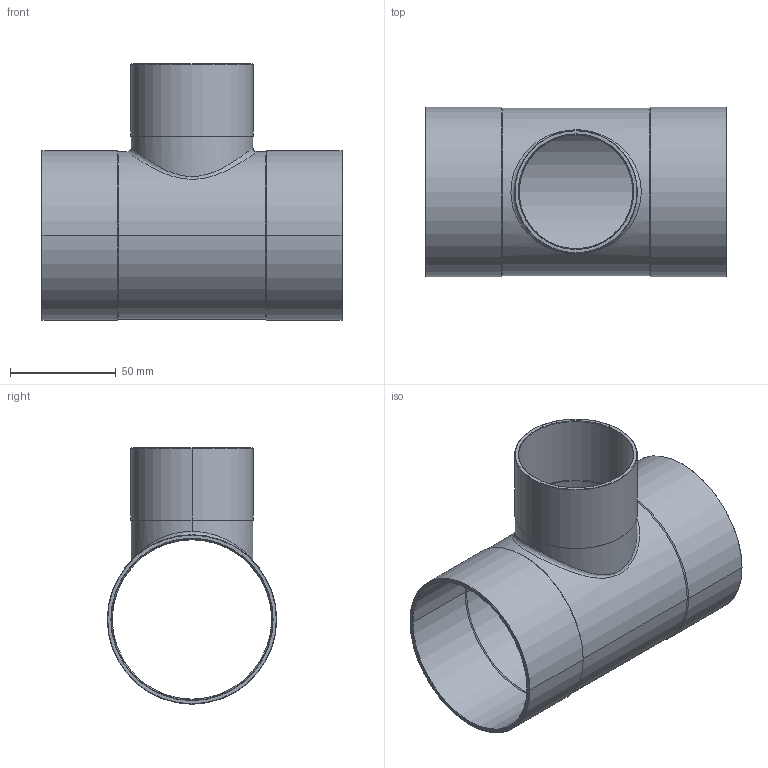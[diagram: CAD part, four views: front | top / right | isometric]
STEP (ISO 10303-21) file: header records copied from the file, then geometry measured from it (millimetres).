
FILE_DESCRIPTION((''),'2;1');
FILE_NAME('G:\Technics\CAD\Bauteile\15130\15130765476.stp','2005-11-02T10:20:01',('boden'),(''),'Autodesk Inventor 8','Autodesk Inventor 8','');
FILE_SCHEMA(('AUTOMOTIVE_DESIGN { 1 0 10303 214 1 1 1 1 }'));
Length unit declared in the file: millimetre
Products named in the file (1): 15130765476
Bounding box: 142 x 80 x 121 mm (x, y, z)
Volume: 77010.3 mm3; surface area: 82010.9 mm2
Topology: 1 solids, 1 shells, 49 faces, 102 edges, 56 vertices
Faces by surface type: cone 24, cylinder 20, plane 3, bspline 2
Entity records: 1723 total; most frequent: CARTESIAN_POINT 644, DIRECTION 240, ORIENTED_EDGE 204, EDGE_CURVE 102, AXIS2_PLACEMENT_3D 98, VERTEX_POINT 56, EDGE_LOOP 54, CIRCLE 50
